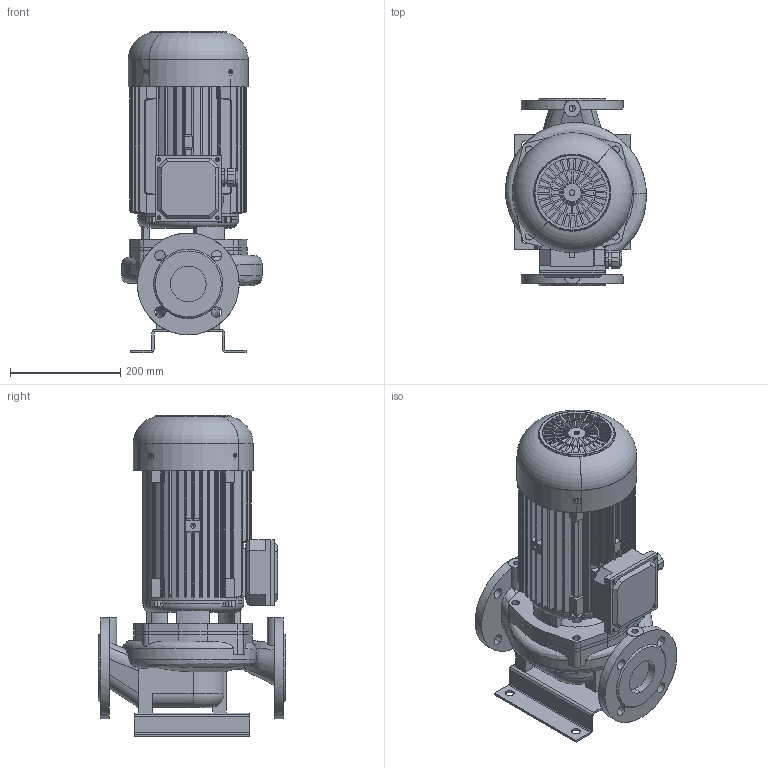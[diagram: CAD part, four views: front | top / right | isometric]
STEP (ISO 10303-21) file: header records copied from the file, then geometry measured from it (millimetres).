
FILE_DESCRIPTION(('STEP AP214'),'1');
FILE_NAME('export.stp','2018-05-29T07:03:09',(' '),(' '),'Spatial InterOp 3D',' ',' ');
FILE_SCHEMA(('AUTOMOTIVE_DESIGN { 1 0 10303 214 1 1 1 1 }'));
Length unit declared in the file: millimetre
Products named in the file (15): W_L65B2400KP112; V_TLL65AB80A1102; V_PPL65AB; V_JALKA35973; 440017; 440016; V_MKP112F19; 440015___; 440018; 440021; 480022; 480020; 480023; M25_Blind_Plug; M25_tiivisteholkk
Assembly tree (14 placements, depth 4):
  W_L65B2400KP112
    V_TLL65AB80A1102
    V_PPL65AB
    V_JALKA35973
    V_MKP112F19
      440017
        440016
      440015___
      440018
      440021
      480022
      480020
      480023
      M25_Blind_Plug
      M25_tiivisteholkk
Bounding box: 256.34 x 340 x 584.2 mm (x, y, z)
Volume: 7321921.9 mm3; surface area: 1563987.7 mm2
Topology: 12 solids, 12 shells, 1710 faces, 4802 edges, 3152 vertices
Faces by surface type: cylinder 849, plane 588, cone 126, torus 95, bspline 52
Entity records: 68439 total; most frequent: CARTESIAN_POINT 19961, ORIENTED_EDGE 9576, DIRECTION 9155, EDGE_CURVE 4788, AXIS2_PLACEMENT_3D 3474, VERTEX_POINT 3152, LINE 2207, VECTOR 2207
